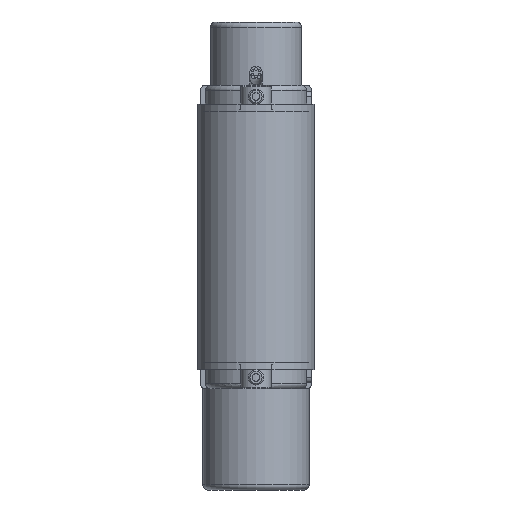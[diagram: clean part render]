
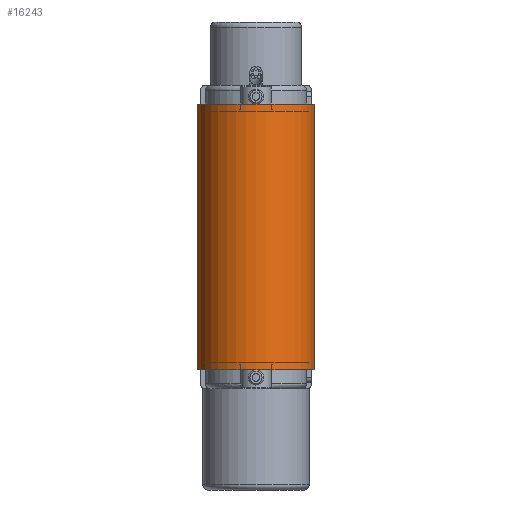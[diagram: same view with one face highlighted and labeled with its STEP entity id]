
A CAD part, front view. The second image highlights one B-rep face of the part: STEP entity #16243.
In plain terms, the highlighted cylindrical face has radius 23.3 mm (diameter 46.6 mm), a partial arc.
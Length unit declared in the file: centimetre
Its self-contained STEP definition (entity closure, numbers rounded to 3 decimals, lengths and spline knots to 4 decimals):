
#1178=FACE_OUTER_BOUND('',#2077,.T.);
#2077=EDGE_LOOP('',(#10978,#10979,#10980,#10981));
#3098=LINE('',#24176,#4356);
#3099=LINE('',#24180,#4357);
#4356=VECTOR('',#19451,1.);
#4357=VECTOR('',#19456,1.);
#5561=CIRCLE('',#17307,2.33);
#5564=CIRCLE('',#17313,2.33);
#6514=VERTEX_POINT('',#24159);
#6515=VERTEX_POINT('',#24160);
#6520=VERTEX_POINT('',#24174);
#6521=VERTEX_POINT('',#24178);
#8241=EDGE_CURVE('',#6514,#6515,#5561,.T.);
#8249=EDGE_CURVE('',#6520,#6515,#3098,.T.);
#8250=EDGE_CURVE('',#6520,#6521,#5564,.T.);
#8251=EDGE_CURVE('',#6514,#6521,#3099,.T.);
#10978=ORIENTED_EDGE('',*,*,#8250,.T.);
#10979=ORIENTED_EDGE('',*,*,#8251,.F.);
#10980=ORIENTED_EDGE('',*,*,#8241,.T.);
#10981=ORIENTED_EDGE('',*,*,#8249,.F.);
#14988=CYLINDRICAL_SURFACE('',#17312,2.33);
#16243=ADVANCED_FACE('',(#1178),#14988,.T.);
#17307=AXIS2_PLACEMENT_3D('',#24161,#19436,#19437);
#17312=AXIS2_PLACEMENT_3D('',#24177,#19452,#19453);
#17313=AXIS2_PLACEMENT_3D('',#24179,#19454,#19455);
#19436=DIRECTION('center_axis',(0.,0.,
-1.));
#19437=DIRECTION('ref_axis',(-1.,0.,0.));
#19451=DIRECTION('',(0.,0.,1.));
#19452=DIRECTION('center_axis',(0.,0.,
-1.));
#19453=DIRECTION('ref_axis',(-1.,0.,0.));
#19454=DIRECTION('center_axis',(0.,0.,
1.));
#19455=DIRECTION('ref_axis',(-1.,0.,0.));
#19456=DIRECTION('',(0.,0.,-1.));
#24159=CARTESIAN_POINT('',(2.33,-67.,5.25));
#24160=CARTESIAN_POINT('',(-2.33,-67.,5.25));
#24161=CARTESIAN_POINT('Origin',(0.,-67.,5.25));
#24174=CARTESIAN_POINT('',(-2.33,-67.,-5.25));
#24176=CARTESIAN_POINT('',(-2.33,-67.,0.));
#24177=CARTESIAN_POINT('Origin',(0.,-67.,0.));
#24178=CARTESIAN_POINT('',(2.33,-67.,-5.25));
#24179=CARTESIAN_POINT('Origin',(0.,-67.,-5.25));
#24180=CARTESIAN_POINT('',(2.33,-67.,0.));
